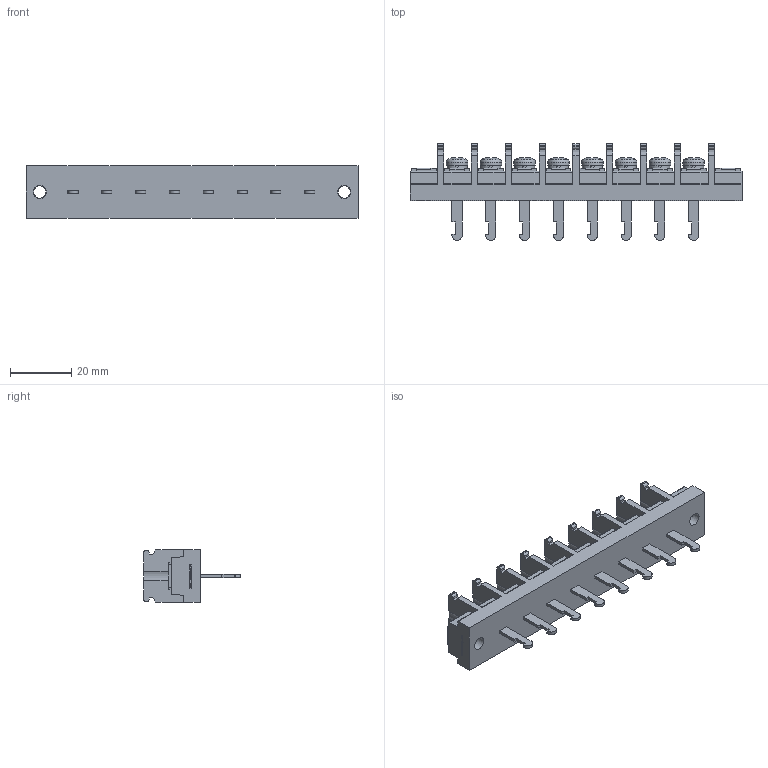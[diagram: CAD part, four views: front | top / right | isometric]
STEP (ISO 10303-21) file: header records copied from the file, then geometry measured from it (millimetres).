
FILE_DESCRIPTION(/* description */ ('Alibre Inc.'),/* implementation_level */ '2;1');
FILE_NAME(/* name */ 'export0',/* time_stamp */ '2015-10-19T20:00:53+09:00',/* author */ (''),/* organization */ (''),/* preprocessor_version */ 'ST-DEVELOPER v14',/* originating_system */ 'Alibre',/* authorisation */ '');
FILE_SCHEMA (('CONFIG_CONTROL_DESIGN'));
Length unit declared in the file: centimetre
Products named in the file (1): ID_1
Bounding box: 108 x 31.5 x 17 mm (x, y, z)
Volume: 19743.2 mm3; surface area: 11600.5 mm2
Topology: 1 solids, 1 shells, 1076 faces, 2996 edges, 1990 vertices
Faces by surface type: plane 766, cylinder 150, bspline 104, cone 32, torus 16, sphere 8
Full cylindrical faces by diameter (mm): 4 x10, 4.2 x2, 6.5 x8, 7 x8
Entity records: 33277 total; most frequent: CARTESIAN_POINT 7114, ORIENTED_EDGE 5868, DIRECTION 4321, EDGE_CURVE 2934, VECTOR 2095, LINE 2095, VERTEX_POINT 1964, AXIS2_PLACEMENT_3D 1487
